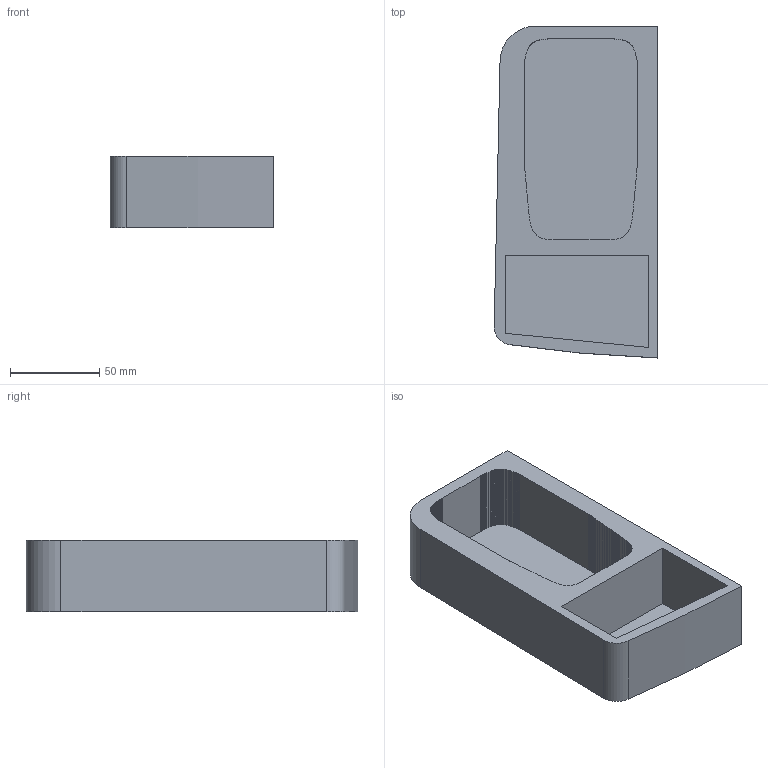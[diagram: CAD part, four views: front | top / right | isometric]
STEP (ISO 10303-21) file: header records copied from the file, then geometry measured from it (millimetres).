
FILE_DESCRIPTION(/* description */ ('','CAx-IF Rec.Pracs.---Representation and Presentation of Product Manufacturing Information (PMI)---4.0---2014-10-13'),/* implementation_level */ '2;1');
FILE_NAME(/* name */ 'BMW_oil_holder.step',/* time_stamp */ '2024-11-27T20:16:05-05:00',/* author */ (''),/* organization */ (''),/* preprocessor_version */ 'ST-DEVELOPER v20',/* originating_system */ 'Autodesk Translation Framework v13.20.0.188',/* authorisation */ '');
FILE_SCHEMA (('AP242_MANAGED_MODEL_BASED_3D_ENGINEERING_MIM_LF { 1 0 10303 442 1 1 4 }'));
Length unit declared in the file: millimetre
Products named in the file (1): FusionComponent
Bounding box: 91.74 x 186 x 40 mm (x, y, z)
Volume: 247693.2 mm3; surface area: 76095.4 mm2
Topology: 1 solids, 1 shells, 248 faces, 732 edges, 488 vertices
Faces by surface type: plane 245, cylinder 2, bspline 1
Entity records: 8180 total; most frequent: CARTESIAN_POINT 1526, ORIENTED_EDGE 1464, DIRECTION 1230, EDGE_CURVE 732, LINE 726, VECTOR 726, VERTEX_POINT 488, AXIS2_PLACEMENT_3D 252
